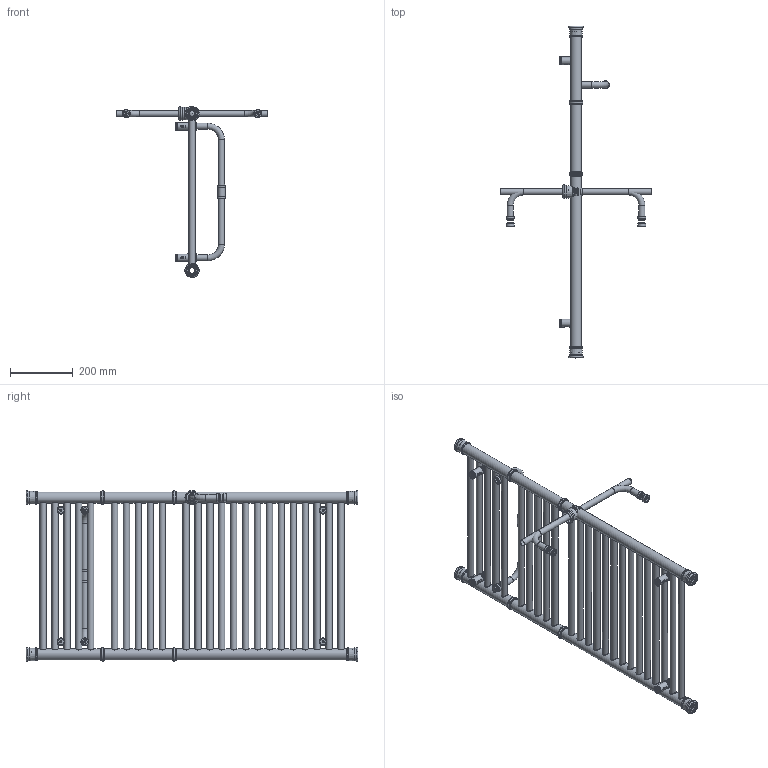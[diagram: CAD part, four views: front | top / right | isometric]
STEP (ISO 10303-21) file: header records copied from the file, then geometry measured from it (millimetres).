
FILE_DESCRIPTION( ( 'Unknown' ), '1' );
FILE_NAME( 'D:/Alplast sp. j/Witryna zespoBu - Projekty/Archiwum/Grzejniki Archiwum/Projekty/DESIGN PROGRAM/RETRO/Retro A4-500.stp', 'Unknown', ( 'Unknown' ), ( 'Unknown' ), 'PSStep 10.1', 'Unknown', ' ' );
FILE_SCHEMA( ( 'AUTOMOTIVE_DESIGN { 1 0 10303 214 1 1 1 1 }' ) );
Length unit declared in the file: millimetre
Products named in the file (55): katurek z wkrêtem do mocowania do  sciany; Assem1; mocowanie do œciany; suszarka Retro 500; Katurek fi 25 v4 ; wkrêt do katurka fi 25 v4; tulejka do mocowania grzejnika v3; mocowanie do grzejnika v3; zaœlepka do mocowania do œciany; detal-v3. par; element do suszarki do mocowania; element do suszarki do mocowania-oa0; tulejka do suszarki ; tulejka do suszarki -oa1; element do suszarki do mocowania ty³; element do suszarki do mocowania ty³-oa2; suszarka 500; kolektor Retro A4; kolektor Retro A4-oa3; Kana³ Prosty Retro 500; Kana³ Prosty Retro 500-oa4; Kana³ Prosty Retro 500-oa5; Kana³ Prosty Retro 500-oa6; Kana³ Prosty Retro 500-oa7; Kana³ Prosty Retro 500-oa8; Kana³ Prosty Retro 500-oa9; Kana³ Prosty Retro 500-oa10; Kana³ Prosty Retro 500-oa11; Kana³ Prosty Retro 500-oa12; Kana³ Prosty Retro 500-oa13; Kana³ Prosty Retro 500-oa14; Kana³ Prosty Retro 500-oa15; Kana³ Prosty Retro 500-oa16; Kana³ Prosty Retro 500-oa17; Kana³ Prosty Retro 500-oa18; Kana³ Prosty Retro 500-oa19; Kana³ Prosty Retro 500-oa20; Kana³ Prosty Retro 500-oa21; Kana³ Prosty Retro 500-oa22; Kana³ Prosty Retro 500-oa23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
Bounding box: 484 x 1058 x 544.96 mm (x, y, z)
Volume: 2655335.1 mm3; surface area: 4041017.4 mm2
Topology: 132 solids, 132 shells, 1084 faces, 2188 edges, 1402 vertices
Faces by surface type: cylinder 458, plane 322, torus 201, cone 84, bspline 12, sphere 7
Full cylindrical faces by diameter (mm): 4.917 x24, 5.9 x6, 6 x27, 6.3 x6, 6.4 x6, 15.5 x6, 17.5 x6, 17.6 x57, 18.631 x8, 20 x57, 20.3 x3, 20.5 x96, 20.6 x6, 21.15 x6, 21.9 x18, 22.8 x3, 24.5 x6, 25 x21, 25.25 x6, 25.3 x6, 32 x8, 32.4 x4, 35 x12, 35.3 x8, 35.5 x8, 39 x16, 41.15 x16
Entity records: 22157 total; most frequent: CARTESIAN_POINT 10737, DIRECTION 1608, ORIENTED_EDGE 910, EDGE_LOOP 892, AXIS2_PLACEMENT_3D 800, FACE_OUTER_BOUND 651, EDGE_CURVE 455, VERTEX_POINT 452
